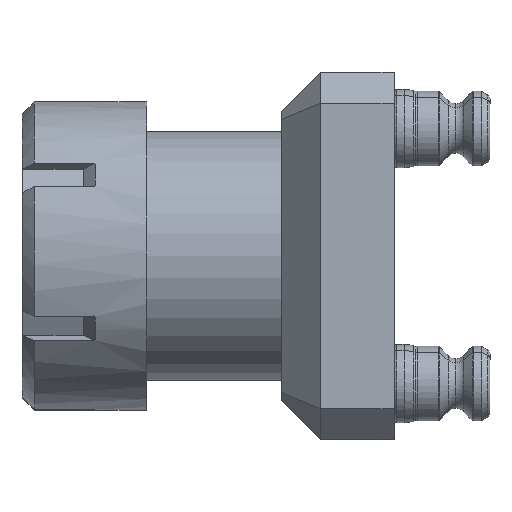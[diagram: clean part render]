
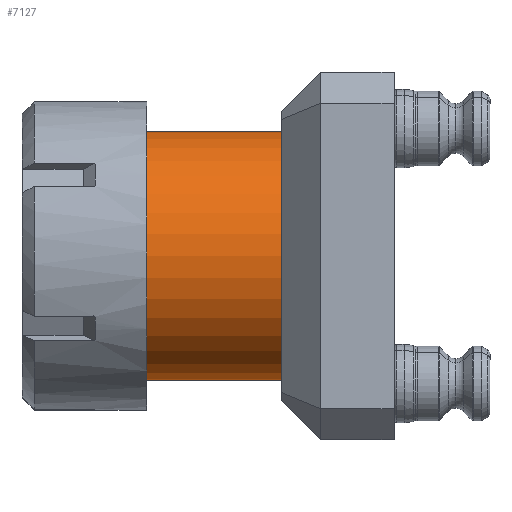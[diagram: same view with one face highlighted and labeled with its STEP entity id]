
A CAD part, left-side view. The second image highlights one B-rep face of the part: STEP entity #7127.
In plain terms, the highlighted cylindrical face has radius 25.4 mm (diameter 50.8 mm), a partial arc.
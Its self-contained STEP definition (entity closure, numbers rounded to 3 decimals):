
#8 = EDGE_CURVE ( 'NONE', #6818, #1356, #4408, .T. ) ;
#229 = VECTOR ( 'NONE', #12141, 1000. ) ;
#280 = CARTESIAN_POINT ( 'NONE',  ( 0., -12.7, 25.4 ) ) ;
#516 = CIRCLE ( 'NONE', #1298, 25.4 ) ;
#1076 = LINE ( 'NONE', #3178, #8542 ) ;
#1298 = AXIS2_PLACEMENT_3D ( 'NONE', #6168, #6216, #10997 ) ;
#1356 = VERTEX_POINT ( 'NONE', #10732 ) ;
#2699 = VERTEX_POINT ( 'NONE', #280 ) ;
#2732 = AXIS2_PLACEMENT_3D ( 'NONE', #12592, #10771, #11670 ) ;
#3178 = CARTESIAN_POINT ( 'NONE',  ( 0., 38.1, -25.4 ) ) ;
#3409 = ORIENTED_EDGE ( 'NONE', *, *, #5366, .T. ) ;
#4362 = AXIS2_PLACEMENT_3D ( 'NONE', #9329, #11274, #12311 ) ;
#4381 = CARTESIAN_POINT ( 'NONE',  ( 0., 38.1, 25.4 ) ) ;
#4408 = CIRCLE ( 'NONE', #2732, 25.4 ) ;
#5366 = EDGE_CURVE ( 'NONE', #6818, #10060, #1076, .T. ) ;
#5739 = ORIENTED_EDGE ( 'NONE', *, *, #10777, .F. ) ;
#6168 = CARTESIAN_POINT ( 'NONE',  ( 0., -12.7, 0. ) ) ;
#6216 = DIRECTION ( 'NONE',  ( 0., -1., 0. ) ) ;
#6481 = CARTESIAN_POINT ( 'NONE',  ( 0., -12.7, -25.4 ) ) ;
#6818 = VERTEX_POINT ( 'NONE', #11689 ) ;
#7127 = ADVANCED_FACE ( 'NONE', ( #10046 ), #9739, .T. ) ;
#7640 = EDGE_LOOP ( 'NONE', ( #8415, #8372, #3409, #5739 ) ) ;
#8372 = ORIENTED_EDGE ( 'NONE', *, *, #8, .F. ) ;
#8415 = ORIENTED_EDGE ( 'NONE', *, *, #9275, .F. ) ;
#8542 = VECTOR ( 'NONE', #11787, 1000. ) ;
#9275 = EDGE_CURVE ( 'NONE', #1356, #2699, #10148, .T. ) ;
#9329 = CARTESIAN_POINT ( 'NONE',  ( 0., 38.1, 0. ) ) ;
#9739 = CYLINDRICAL_SURFACE ( 'NONE', #4362, 25.4 ) ;
#10046 = FACE_OUTER_BOUND ( 'NONE', #7640, .T. ) ;
#10060 = VERTEX_POINT ( 'NONE', #6481 ) ;
#10148 = LINE ( 'NONE', #4381, #229 ) ;
#10732 = CARTESIAN_POINT ( 'NONE',  ( 0., 19.05, 25.4 ) ) ;
#10771 = DIRECTION ( 'NONE',  ( 0., 1., 0. ) ) ;
#10777 = EDGE_CURVE ( 'NONE', #2699, #10060, #516, .T. ) ;
#10997 = DIRECTION ( 'NONE',  ( 0., 0., -1. ) ) ;
#11274 = DIRECTION ( 'NONE',  ( 0., -1., 0. ) ) ;
#11670 = DIRECTION ( 'NONE',  ( 0., 0., 1. ) ) ;
#11689 = CARTESIAN_POINT ( 'NONE',  ( 0., 19.05, -25.4 ) ) ;
#11787 = DIRECTION ( 'NONE',  ( 0., -1., 0. ) ) ;
#12141 = DIRECTION ( 'NONE',  ( 0., -1., 0. ) ) ;
#12311 = DIRECTION ( 'NONE',  ( 0., 0., -1. ) ) ;
#12592 = CARTESIAN_POINT ( 'NONE',  ( 0., 19.05, 0. ) ) ;
